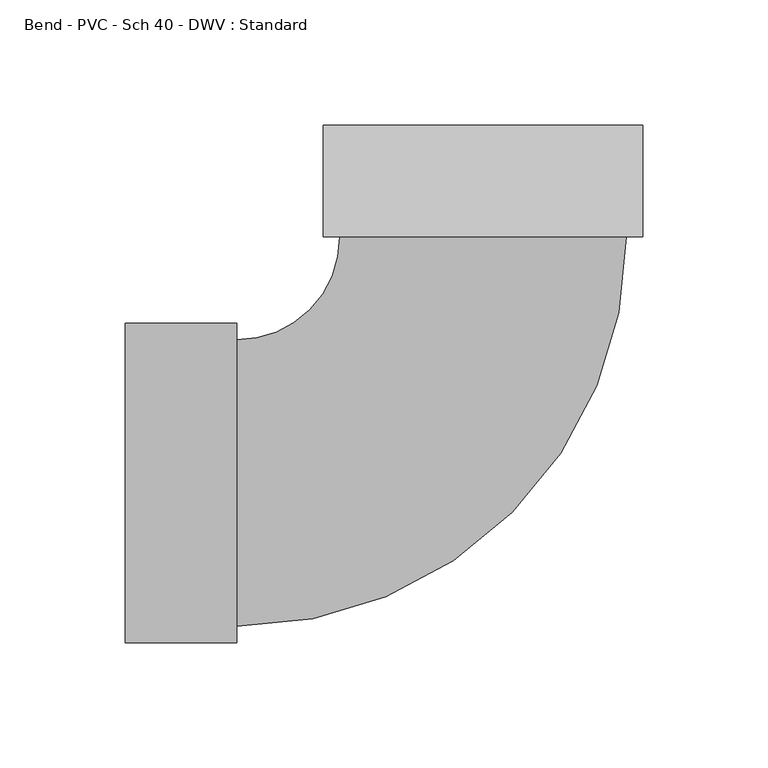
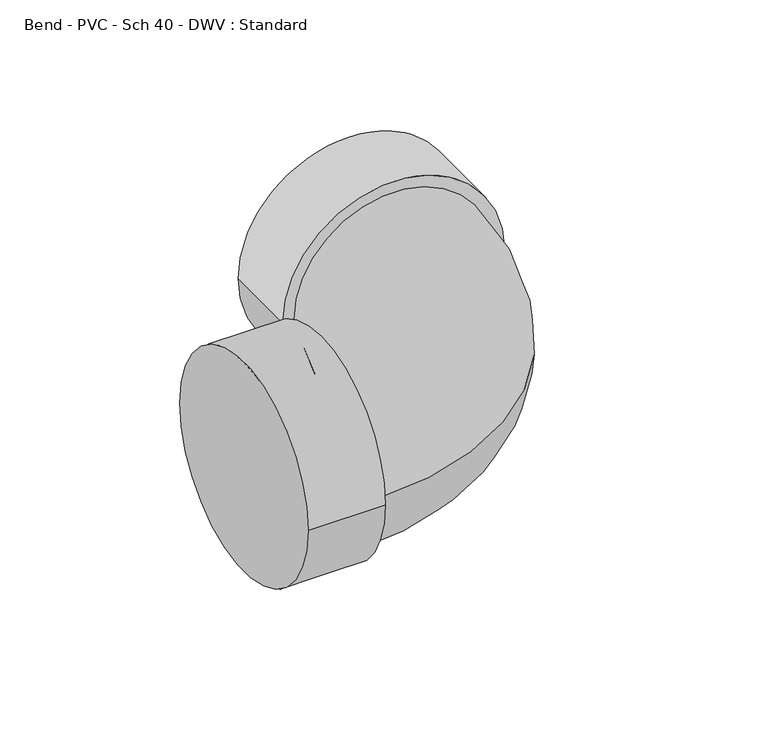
"""IFC4 building model written with IfcOpenShell, lengths in millimetres: pipe fitting geometry, Bend - PVC - Sch 40 - DWV : Standard."""

from ifc_helpers import new_model, si_unit, point, frame, origin, place, context, project, spatial, circle_curve, ellipse_curve, trimmed, source, transform, mapped, element, save
from ifc_brep_helpers import plane_surface, cylinder_surface, revolved_surface, advanced_brep


def bend_pvc_sch_40_dwv_standard_6d77aece(model_context):
    return source(origin(), model_context, "Body", "AdvancedBrep", [
        advanced_brep(
        [(-142.875, -63.754, 0.0), (-142.875, 63.754, 0.0), (-98.425, -63.754, 0.0), (-98.425, 63.754, 0.0), (-98.425, -57.15, 0.0), (-98.425, 57.15, 0.0), (-57.1450878, 98.4278521, 0.0), (57.154912, 98.4221477, 0.0), (63.758912, 98.4218181, 0.0), (-63.7490878, 98.4281816, 0.0), (63.7611304, 142.8718181, 0.0), (-63.7468695, 142.8781816, 0.0)],
        [
            (0, 1, circle_curve(frame((-142.875, 0.0, 0.0), z_axis=(-1.0, 0.0, 0.0), x_axis=(0.0, 1.0, 0.0)), 63.754)),
            (1, 0, circle_curve(frame((-142.875, 0.0, 0.0), z_axis=(-1.0, 0.0, 0.0), x_axis=(0.0, 1.0, 0.0)), 63.754)),
            (2, 3, circle_curve(frame((-98.425, 0.0, 0.0), z_axis=(1.0, 0.0, 0.0), x_axis=(0.0, 1.0, 0.0)), 63.754)),
            (3, 2, circle_curve(frame((-98.425, 0.0, 0.0), z_axis=(1.0, 0.0, 0.0), x_axis=(0.0, 1.0, 0.0)), 63.754)),
            (4, 5, circle_curve(frame((-98.425, 0.0, 0.0), z_axis=(-1.0, 0.0, 0.0), x_axis=(0.0, 1.0, 0.0)), 57.15)),
            (5, 4, circle_curve(frame((-98.425, 0.0, 0.0), z_axis=(-1.0, 0.0, 0.0), x_axis=(0.0, 1.0, 0.0)), 57.15)),
            (0, 2),
            (3, 1),
            (6, 5, circle_curve(frame((-98.425, 98.4299122, 0.0), z_axis=(0.0, 0.0, -1.0), x_axis=(0.0, -1.0, 0.0)), 41.2799122)),
            (4, 7, circle_curve(frame((-98.425, 98.4299122, 0.0), z_axis=(0.0, 0.0, 1.0), x_axis=(0.0, -1.0, 0.0)), 155.5799122)),
            (7, 6, circle_curve(frame((0.0049121, 98.4249999, 0.0), z_axis=(-4.9906932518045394e-05, -0.9999999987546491, 0.0), x_axis=(-0.9999999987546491, 4.9906932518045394e-05, 0.0)), 57.15)),
            (6, 7, circle_curve(frame((0.0049121, 98.4249999, 0.0), z_axis=(-4.9906932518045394e-05, -0.9999999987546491, 0.0), x_axis=(-0.9999999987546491, 4.9906932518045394e-05, 0.0)), 57.15)),
            (8, 9, circle_curve(frame((0.0049121, 98.4249999, 0.0), z_axis=(-4.990693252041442e-05, -0.9999999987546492, 0.0), x_axis=(-0.9999999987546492, 4.990693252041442e-05, 0.0)), 63.754)),
            (9, 8, circle_curve(frame((0.0049121, 98.4249999, 0.0), z_axis=(-4.990693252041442e-05, -0.9999999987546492, 0.0), x_axis=(-0.9999999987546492, 4.990693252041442e-05, 0.0)), 63.754)),
            (10, 11, circle_curve(frame((0.0071305, 142.8749998, 0.0), z_axis=(4.990693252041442e-05, 0.9999999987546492, 0.0), x_axis=(-0.9999999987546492, 4.990693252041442e-05, 0.0)), 63.754)),
            (11, 10, circle_curve(frame((0.0071305, 142.8749998, 0.0), z_axis=(4.990693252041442e-05, 0.9999999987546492, 0.0), x_axis=(-0.9999999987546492, 4.990693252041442e-05, 0.0)), 63.754)),
            (8, 10),
            (11, 9),
        ],
        [
            plane_surface(frame((-142.875, 0.0, 0.0), z_axis=(-1.0, 0.0, 0.0), x_axis=(0.0, 0.0, 1.0))),
            plane_surface(frame((-98.425, 0.0, 0.0), z_axis=(1.0, 0.0, 0.0), x_axis=(0.0, 0.0, 1.0))),
            cylinder_surface(frame((-142.875, 0.0, 0.0), z_axis=(-1.0, 0.0, 0.0), x_axis=(0.0, 1.0, 0.0)), 63.754),
            revolved_surface(trimmed(ellipse_curve(frame((-98.425, 0.0, 0.0), z_axis=(-1.0, 0.0, 0.0), x_axis=(0.0, 1.0, 0.0)), 57.15, 57.15), [point((-98.425, -57.15, 0.0))], [point((-98.425, 57.15, 0.0))], True, "CARTESIAN"), (-98.425, 98.4299122, 0.0), (0.0, 0.0, 1.0)),
            revolved_surface(trimmed(ellipse_curve(frame((-98.425, 0.0, 0.0), z_axis=(-1.0, 0.0, 0.0), x_axis=(0.0, 1.0, 0.0)), 57.15, 57.15), [point((-98.425, 57.15, 0.0))], [point((-98.425, -57.15, 0.0))], True, "CARTESIAN"), (-98.425, 98.4299122, 0.0), (0.0, 0.0, 1.0)),
            plane_surface(frame((0.0049121, 98.4249999, 0.0), z_axis=(-4.990693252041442e-05, -0.9999999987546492, 0.0), x_axis=(0.0, 0.0, 1.0))),
            plane_surface(frame((0.0071305, 142.8749998, 0.0), z_axis=(4.990693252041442e-05, 0.9999999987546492, 0.0), x_axis=(0.0, 0.0, 1.0))),
            cylinder_surface(frame((0.0049121, 98.4249999, 0.0), z_axis=(-4.990693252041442e-05, -0.9999999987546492, 0.0), x_axis=(-0.9999999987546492, 4.990693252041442e-05, 0.0)), 63.754),
        ],
        [
            (0, [[1, 2]]),
            (1, [[3, 4], [5, 6]]),
            (2, [[-1, 7, -4, 8]]),
            (2, [[-2, -8, -3, -7]]),
            (3, [[9, -5, 10, 11]]),
            (4, [[-9, 12, -10, -6]]),
            (5, [[13, 14], [-11, -12]]),
            (6, [[15, 16]]),
            (7, [[-13, 17, -16, 18]]),
            (7, [[-14, -18, -15, -17]]),
        ],
    ),
    ])


if __name__ == "__main__":
    model = new_model("IFC4")
    model_context = context("Model", 3, world=origin())
    ifc_project = project(units=[si_unit("LENGTHUNIT", "METRE", prefix="MILLI")], contexts=[model_context])
    site = spatial("IfcSite", under=ifc_project)
    building = spatial("IfcBuilding", under=site)
    placement = place(None, origin())
    bend_pvc_sch_40_dwv_standard_shape = bend_pvc_sch_40_dwv_standard_6d77aece(model_context)
    element("IfcPipeFitting", 1, ObjectType="Bend - PVC - Sch 40 - DWV : Standard", at=placement, inside=building, context=model_context, shape_type="MappedRepresentation", body=[
        mapped(bend_pvc_sch_40_dwv_standard_shape, transform((0.0, 0.0, 0.0), x_axis=(1.0, 0.0, 0.0), y_axis=(0.0, 1.0, 0.0), z_axis=(0.0, 0.0, 1.0))),
    ])
    save(model, "model.ifc")
